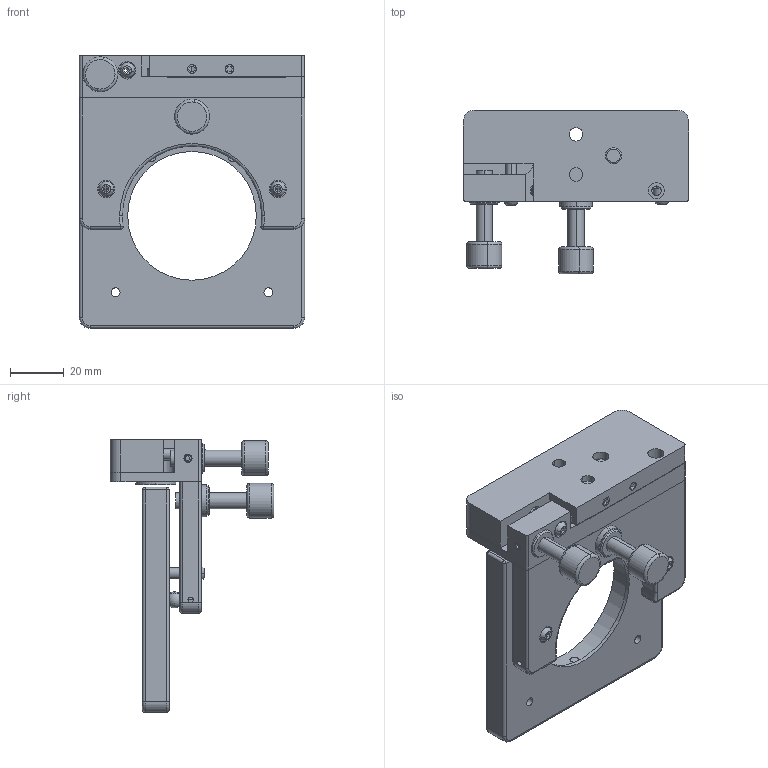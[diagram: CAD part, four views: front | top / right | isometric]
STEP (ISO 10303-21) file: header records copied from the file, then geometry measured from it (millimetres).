
FILE_DESCRIPTION (( 'STEP AP203' ), '1' );
FILE_NAME ('7MM0850謗峎覃淕噩殤.STEP', '2019-10-17T09:08:51', ( '' ), ( '' ), 'SwSTEP 2.0', 'SolidWorks 2014', '' );
FILE_SCHEMA (( 'CONFIG_CONTROL_DESIGN' ));
Length unit declared in the file: millimetre
Products named in the file (1): 7MM0850謗峎覃淕噩殤
Bounding box: 84.01 x 61 x 101.8 mm (x, y, z)
Surface area: 42670 mm2 (no closed solid volume)
Topology: 0 solids, 38 shells, 330 faces, 875 edges, 561 vertices
Faces by surface type: plane 134, cylinder 120, torus 26, cone 26, sphere 24
Entity records: 10413 total; most frequent: CARTESIAN_POINT 1997, DIRECTION 1923, ORIENTED_EDGE 1482, EDGE_CURVE 853, AXIS2_PLACEMENT_3D 753, VERTEX_POINT 555, CIRCLE 422, VECTOR 417
